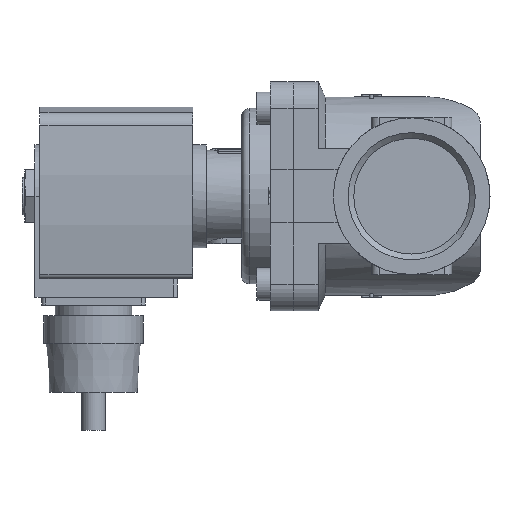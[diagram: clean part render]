
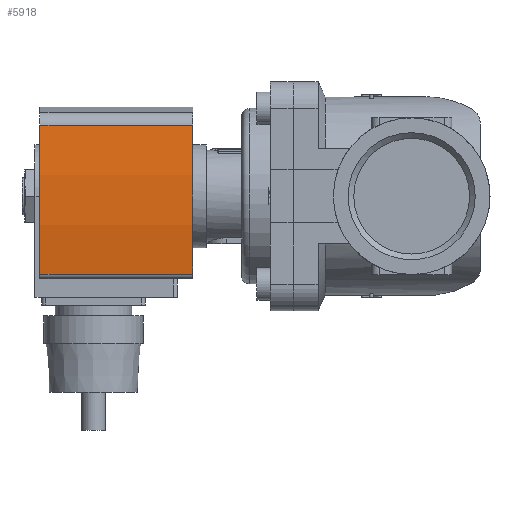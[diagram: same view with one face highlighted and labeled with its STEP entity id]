
A CAD part, left-side view. The second image highlights one B-rep face of the part: STEP entity #5918.
In plain terms, the highlighted cylindrical face has radius 130 mm (diameter 260 mm), a partial arc.
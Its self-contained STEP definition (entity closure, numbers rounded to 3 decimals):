
#235=CYLINDRICAL_SURFACE('',#6442,130.);
#621=LINE('',#9570,#1027);
#622=LINE('',#9574,#1028);
#1027=VECTOR('',#7818,1000.);
#1028=VECTOR('',#7823,1000.);
#2317=ORIENTED_EDGE('',*,*,#3148,.T.);
#2318=ORIENTED_EDGE('',*,*,#3149,.F.);
#2319=ORIENTED_EDGE('',*,*,#3137,.F.);
#2320=ORIENTED_EDGE('',*,*,#3147,.T.);
#3137=EDGE_CURVE('',#3656,#3657,#3880,.T.);
#3147=EDGE_CURVE('',#3656,#3663,#621,.T.);
#3148=EDGE_CURVE('',#3663,#3664,#3888,.T.);
#3149=EDGE_CURVE('',#3657,#3664,#622,.T.);
#3656=VERTEX_POINT('',#9550);
#3657=VERTEX_POINT('',#9552);
#3663=VERTEX_POINT('',#9569);
#3664=VERTEX_POINT('',#9573);
#3880=CIRCLE('',#6432,130.);
#3888=CIRCLE('',#6443,130.);
#4201=EDGE_LOOP('',(#2317,#2318,#2319,#2320));
#4540=FACE_BOUND('',#4201,.T.);
#5918=ADVANCED_FACE('',(#4540),#235,.T.);
#6432=AXIS2_PLACEMENT_3D('',#9551,#7796,#7797);
#6442=AXIS2_PLACEMENT_3D('',#9571,#7819,#7820);
#6443=AXIS2_PLACEMENT_3D('',#9572,#7821,#7822);
#7796=DIRECTION('',(0.,1.,0.));
#7797=DIRECTION('',(1.,0.,0.));
#7818=DIRECTION('',(0.,-1.,0.));
#7819=DIRECTION('',(0.,-1.,0.));
#7820=DIRECTION('',(0.,0.,-1.));
#7821=DIRECTION('',(0.,1.,0.));
#7822=DIRECTION('',(1.,0.,0.));
#7823=DIRECTION('',(0.,-1.,0.));
#9550=CARTESIAN_POINT('',(-20.382,14.,18.392));
#9551=CARTESIAN_POINT('',(0.,14.,-110.));
#9552=CARTESIAN_POINT('',(18.639,14.,18.657));
#9569=CARTESIAN_POINT('',(-20.382,-26.,18.392));
#9570=CARTESIAN_POINT('',(-20.382,14.,18.392));
#9571=CARTESIAN_POINT('',(0.,14.,-110.));
#9572=CARTESIAN_POINT('',(0.,-26.,-110.));
#9573=CARTESIAN_POINT('',(18.639,-26.,18.657));
#9574=CARTESIAN_POINT('',(18.639,14.,18.657));
